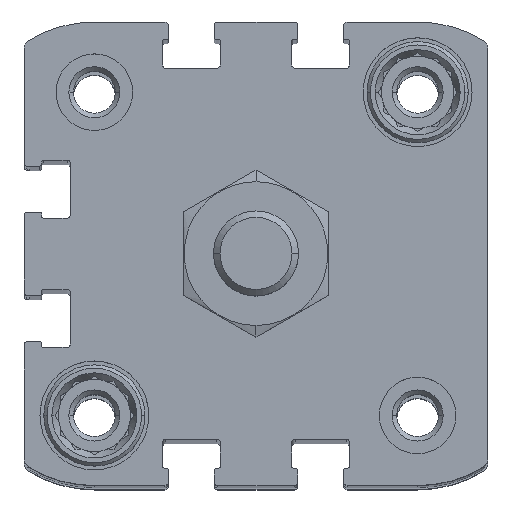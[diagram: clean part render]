
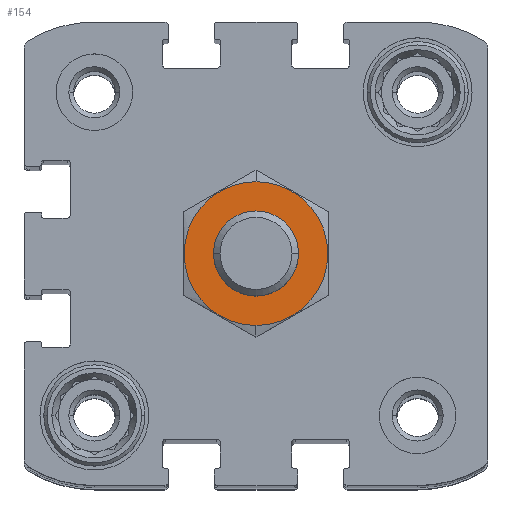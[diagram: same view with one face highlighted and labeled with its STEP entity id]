
A CAD part, top view. The second image highlights one B-rep face of the part: STEP entity #154.
In plain terms, the highlighted planar face has unit normal (0, 0, 1) as drawn and (0, 1, 0) by its records, which use the part's own axes.
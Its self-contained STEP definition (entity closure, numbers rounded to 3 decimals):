
#121 = ORIENTED_EDGE ( 'NONE', *, *, #1871, .F. ) ;
#154 = ADVANCED_FACE ( 'NONE', ( #468, #7070 ), #5504, .F. ) ;
#329 = CARTESIAN_POINT ( 'NONE',  ( 0., 0., 0. ) ) ;
#367 = DIRECTION ( 'NONE',  ( 0., -1., 0. ) ) ;
#468 = FACE_BOUND ( 'NONE', #8652, .T. ) ;
#762 = CIRCLE ( 'NONE', #7066, 8.45 ) ;
#1583 = DIRECTION ( 'NONE',  ( 0., 0., -1. ) ) ;
#1871 = EDGE_CURVE ( 'NONE', #3470, #12230, #13772, .T. ) ;
#1981 = CIRCLE ( 'NONE', #12104, 5. ) ;
#2195 = CARTESIAN_POINT ( 'NONE',  ( 0., 0., -5. ) ) ;
#2269 = CARTESIAN_POINT ( 'NONE',  ( 0., 0., -8.45 ) ) ;
#2365 = VERTEX_POINT ( 'NONE', #3808 ) ;
#2669 = EDGE_CURVE ( 'NONE', #2365, #12669, #1981, .T. ) ;
#3102 = DIRECTION ( 'NONE',  ( 0., -1., 0. ) ) ;
#3470 = VERTEX_POINT ( 'NONE', #13154 ) ;
#3571 = AXIS2_PLACEMENT_3D ( 'NONE', #329, #9049, #1583 ) ;
#3808 = CARTESIAN_POINT ( 'NONE',  ( 0., 0., 5. ) ) ;
#4456 = DIRECTION ( 'NONE',  ( 0., 0., -1. ) ) ;
#4866 = CARTESIAN_POINT ( 'NONE',  ( 0., 0., 0. ) ) ;
#5504 = PLANE ( 'NONE',  #10558 ) ;
#5648 = CARTESIAN_POINT ( 'NONE',  ( 0., 0., 0. ) ) ;
#5719 = CARTESIAN_POINT ( 'NONE',  ( 0., 0., 0. ) ) ;
#6010 = CIRCLE ( 'NONE', #8785, 5. ) ;
#6114 = DIRECTION ( 'NONE',  ( 0., 0., 1. ) ) ;
#6961 = DIRECTION ( 'NONE',  ( 0., 0., 1. ) ) ;
#7066 = AXIS2_PLACEMENT_3D ( 'NONE', #7826, #367, #9097 ) ;
#7070 = FACE_OUTER_BOUND ( 'NONE', #11830, .T. ) ;
#7826 = CARTESIAN_POINT ( 'NONE',  ( 0., 0., 0. ) ) ;
#7916 = ORIENTED_EDGE ( 'NONE', *, *, #12385, .F. ) ;
#8652 = EDGE_LOOP ( 'NONE', ( #11854, #12585 ) ) ;
#8785 = AXIS2_PLACEMENT_3D ( 'NONE', #5719, #14496, #6961 ) ;
#9049 = DIRECTION ( 'NONE',  ( 0., -1., 0. ) ) ;
#9097 = DIRECTION ( 'NONE',  ( 0., 0., -1. ) ) ;
#10558 = AXIS2_PLACEMENT_3D ( 'NONE', #5648, #3102, #4456 ) ;
#11830 = EDGE_LOOP ( 'NONE', ( #7916, #121 ) ) ;
#11854 = ORIENTED_EDGE ( 'NONE', *, *, #2669, .F. ) ;
#12104 = AXIS2_PLACEMENT_3D ( 'NONE', #4866, #13645, #6114 ) ;
#12230 = VERTEX_POINT ( 'NONE', #2269 ) ;
#12385 = EDGE_CURVE ( 'NONE', #12230, #3470, #762, .T. ) ;
#12585 = ORIENTED_EDGE ( 'NONE', *, *, #15015, .F. ) ;
#12669 = VERTEX_POINT ( 'NONE', #2195 ) ;
#13154 = CARTESIAN_POINT ( 'NONE',  ( 0., 0., 8.45 ) ) ;
#13645 = DIRECTION ( 'NONE',  ( 0., 1., 0. ) ) ;
#13772 = CIRCLE ( 'NONE', #3571, 8.45 ) ;
#14496 = DIRECTION ( 'NONE',  ( 0., 1., 0. ) ) ;
#15015 = EDGE_CURVE ( 'NONE', #12669, #2365, #6010, .T. ) ;
